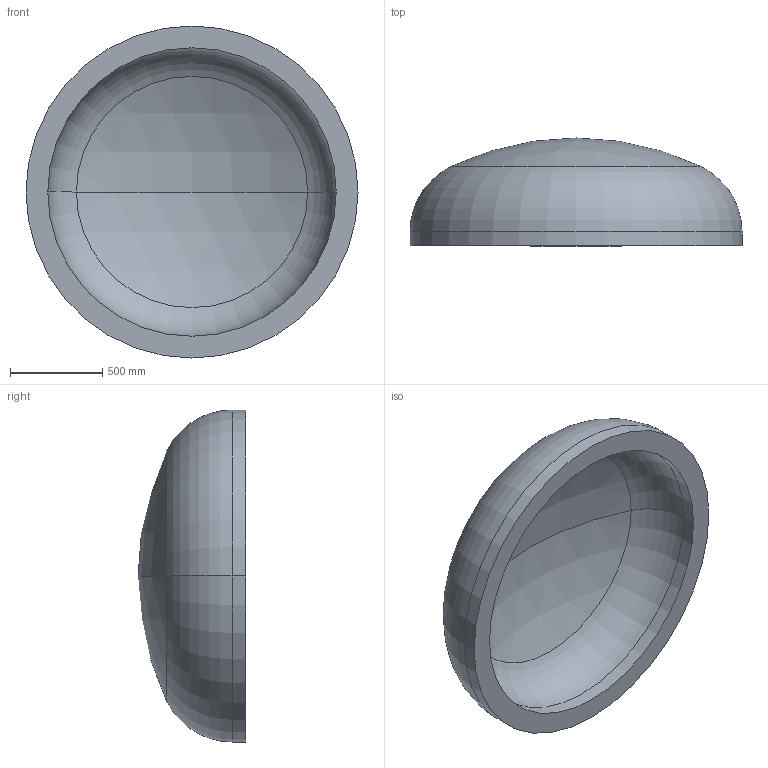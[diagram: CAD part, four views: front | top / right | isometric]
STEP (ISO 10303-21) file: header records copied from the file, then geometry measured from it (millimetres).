
FILE_DESCRIPTION (( 'STEP AP203' ), '1' );
FILE_NAME ('DIN 28013 Korbbogenform_-_Boden DIN 28013 - 1800 x 75 - I - s=118.step', '2016-07-01T12:49:31', ( '' ), ( '' ), 'SwSTEP 2.0', 'SolidWorks 2013', '' );
FILE_SCHEMA (( 'CONFIG_CONTROL_DESIGN' ));
Length unit declared in the file: millimetre
Products named in the file (1): DIN 28013 Korbbogenform_-_Boden DIN 28013 - 1800 x 75 - I - s=118
Bounding box: 1800 x 584.11 x 1800 mm (x, y, z)
Volume: 428810000.7 mm3; surface area: 7920657.4 mm2
Topology: 1 solids, 1 shells, 13 faces, 24 edges, 14 vertices
Faces by surface type: torus 4, cylinder 4, sphere 4, plane 1
Entity records: 407 total; most frequent: DIRECTION 72, CARTESIAN_POINT 52, ORIENTED_EDGE 48, AXIS2_PLACEMENT_3D 34, EDGE_CURVE 24, CIRCLE 20, EDGE_LOOP 14, VERTEX_POINT 14
